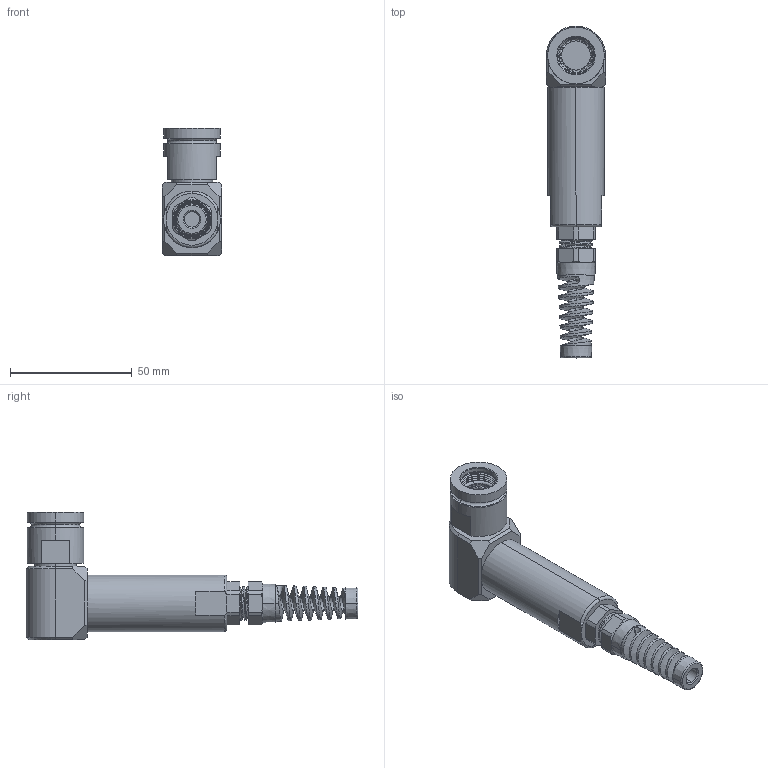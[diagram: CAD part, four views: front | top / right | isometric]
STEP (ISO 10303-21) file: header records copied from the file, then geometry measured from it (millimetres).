
FILE_DESCRIPTION (( 'STEP AP214' ), '1' );
FILE_NAME ('Q38EBSHELL-90X-11-XXXX-GB.STEP', '2025-09-22T15:00:40', ( '' ), ( '' ), 'SwSTEP 2.0', 'SolidWorks 2024', '' );
FILE_SCHEMA (( 'AUTOMOTIVE_DESIGN' ));
Length unit declared in the file: millimetre
Products named in the file (1): Q38EBSHELL-90X-11-XXXX-GB
Bounding box: 24.26 x 136.19 x 52.27 mm (x, y, z)
Volume: 52433.3 mm3; surface area: 15898.6 mm2
Topology: 2 solids, 4 shells, 277 faces, 848 edges, 596 vertices
Faces by surface type: plane 125, cylinder 81, cone 46, torus 13, bspline 12
Entity records: 14886 total; most frequent: CARTESIAN_POINT 7791, ORIENTED_EDGE 1696, DIRECTION 1253, EDGE_CURVE 848, VERTEX_POINT 596, AXIS2_PLACEMENT_3D 497, EDGE_LOOP 298, ADVANCED_FACE 277
